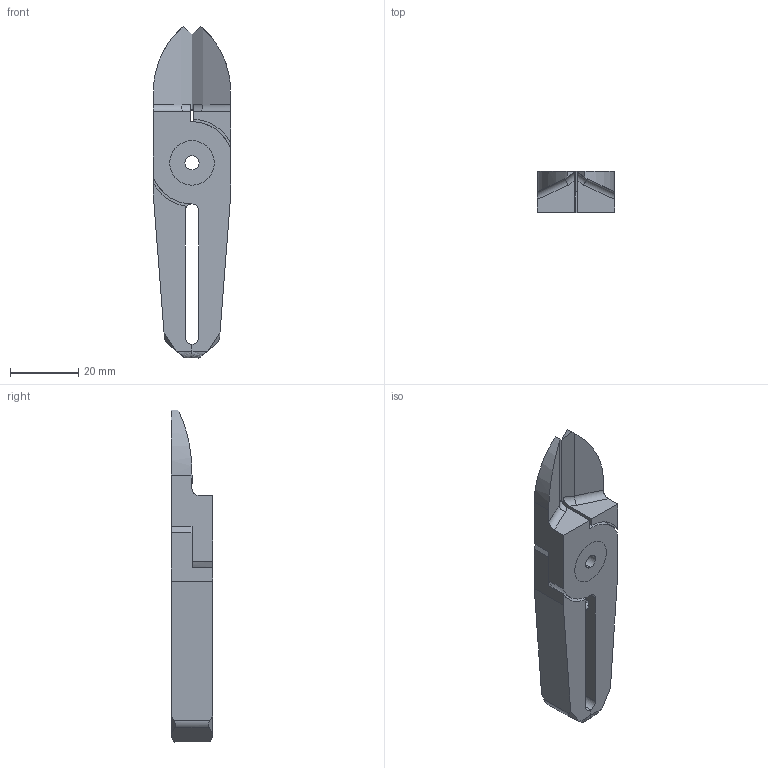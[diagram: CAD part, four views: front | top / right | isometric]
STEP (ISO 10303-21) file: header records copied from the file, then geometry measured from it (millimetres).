
FILE_DESCRIPTION (( 'STEP AP214' ), '1' );
FILE_NAME ('NT20AJH.STEP', '2019-11-28T09:03:01', ( '微软用户' ), ( '微软中国' ), 'SwSTEP 2.0', 'SolidWorks 2016', '' );
FILE_SCHEMA (( 'AUTOMOTIVE_DESIGN' ));
Length unit declared in the file: millimetre
Products named in the file (4): NT20AJH; BR2; BR1; BS
Assembly tree (3 placements, depth 2):
  NT20AJH
    BS
    BR1
    BR2
Bounding box: 22.5 x 12 x 97 mm (x, y, z)
Volume: 15804.7 mm3; surface area: 9416.2 mm2
Topology: 3 solids, 3 shells, 94 faces, 248 edges, 158 vertices
Faces by surface type: plane 38, cylinder 25, cone 16, bspline 15
Entity records: 3145 total; most frequent: CARTESIAN_POINT 798, ORIENTED_EDGE 488, DIRECTION 428, EDGE_CURVE 244, VERTEX_POINT 158, LINE 148, VECTOR 148, AXIS2_PLACEMENT_3D 140
